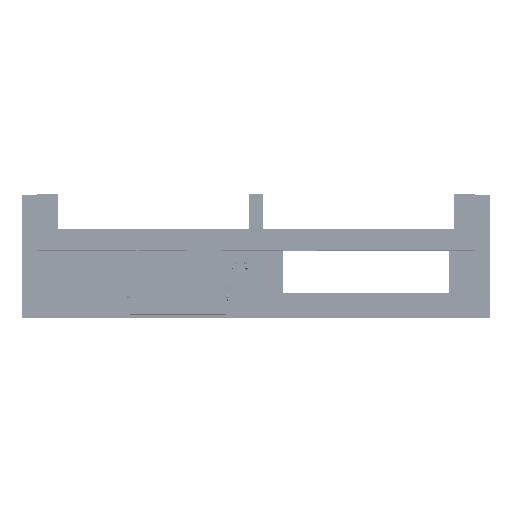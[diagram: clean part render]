
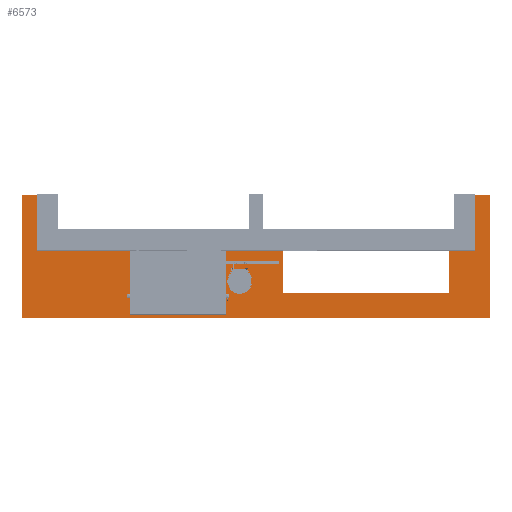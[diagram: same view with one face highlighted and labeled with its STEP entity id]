
A CAD part, top view. The second image highlights one B-rep face of the part: STEP entity #6573.
In plain terms, the highlighted planar face has unit normal (0, 0, 1).
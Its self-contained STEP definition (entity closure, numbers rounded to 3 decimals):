
#6406=CARTESIAN_POINT('',(28104.339,-3145.,-1120.));
#6407=VERTEX_POINT('',#6406);
#6414=CARTESIAN_POINT('',(28104.339,-1700.002,-1120.));
#6415=VERTEX_POINT('',#6414);
#6416=CARTESIAN_POINT('',(28104.339,-1700.002,-1120.));
#6417=DIRECTION('',(0.,-1.,-0.));
#6418=VECTOR('',#6417,1444.998);
#6419=LINE('',#6416,#6418);
#6420=EDGE_CURVE('',#6415,#6407,#6419,.T.);
#6444=CARTESIAN_POINT('',(22954.337,-3145.,-1120.));
#6445=VERTEX_POINT('',#6444);
#6452=CARTESIAN_POINT('',(28104.339,-3145.,-1120.));
#6453=DIRECTION('',(-1.,-0.,-0.));
#6454=VECTOR('',#6453,5150.002);
#6455=LINE('',#6452,#6454);
#6456=EDGE_CURVE('',#6407,#6445,#6455,.T.);
#6475=CARTESIAN_POINT('',(22954.337,-1700.002,-1120.));
#6476=VERTEX_POINT('',#6475);
#6483=CARTESIAN_POINT('',(22954.337,-3145.,-1120.));
#6484=DIRECTION('',(-0.,1.,-0.));
#6485=VECTOR('',#6484,1444.998);
#6486=LINE('',#6483,#6485);
#6487=EDGE_CURVE('',#6445,#6476,#6486,.T.);
#6493=CARTESIAN_POINT('',(22135.837,-2017.501,-1120.));
#6494=DIRECTION('',(0.,0.,1.));
#6495=DIRECTION('',(1.,0.,0.));
#6496=AXIS2_PLACEMENT_3D('',#6493,#6494,#6495);
#6497=PLANE('',#6496);
#6498=ORIENTED_EDGE('',*,*,#6420,.T.);
#6499=ORIENTED_EDGE('',*,*,#6456,.T.);
#6500=ORIENTED_EDGE('',*,*,#6487,.T.);
#6501=CARTESIAN_POINT('',(15512.336,-1700.002,-1120.));
#6502=VERTEX_POINT('',#6501);
#6503=CARTESIAN_POINT('',(22954.337,-1700.002,-1120.));
#6504=DIRECTION('',(-1.,-0.,0.));
#6505=VECTOR('',#6504,7442.001);
#6506=LINE('',#6503,#6505);
#6507=EDGE_CURVE('',#6476,#6502,#6506,.T.);
#6508=ORIENTED_EDGE('',*,*,#6507,.T.);
#6509=CARTESIAN_POINT('',(15512.336,-115.,-1120.));
#6510=VERTEX_POINT('',#6509);
#6511=CARTESIAN_POINT('',(15512.336,-1700.002,-1120.));
#6512=DIRECTION('',(0.,1.,0.));
#6513=VECTOR('',#6512,1585.002);
#6514=LINE('',#6511,#6513);
#6515=EDGE_CURVE('',#6502,#6510,#6514,.T.);
#6516=ORIENTED_EDGE('',*,*,#6515,.T.);
#6517=CARTESIAN_POINT('',(14912.337,-115.,-1120.));
#6518=VERTEX_POINT('',#6517);
#6519=CARTESIAN_POINT('',(15512.336,-115.,-1120.));
#6520=DIRECTION('',(-1.,-0.,0.));
#6521=VECTOR('',#6520,599.999);
#6522=LINE('',#6519,#6521);
#6523=EDGE_CURVE('',#6510,#6518,#6522,.T.);
#6524=ORIENTED_EDGE('',*,*,#6523,.T.);
#6525=CARTESIAN_POINT('',(14912.337,-3920.001,-1120.));
#6526=VERTEX_POINT('',#6525);
#6527=CARTESIAN_POINT('',(14912.337,-115.,-1120.));
#6528=DIRECTION('',(-0.,-1.,-0.));
#6529=VECTOR('',#6528,3805.001);
#6530=LINE('',#6527,#6529);
#6531=EDGE_CURVE('',#6518,#6526,#6530,.T.);
#6532=ORIENTED_EDGE('',*,*,#6531,.T.);
#6533=CARTESIAN_POINT('',(29359.338,-3920.001,-1120.));
#6534=VERTEX_POINT('',#6533);
#6535=CARTESIAN_POINT('',(14912.337,-3920.001,-1120.));
#6536=DIRECTION('',(1.,0.,-0.));
#6537=VECTOR('',#6536,14447.001);
#6538=LINE('',#6535,#6537);
#6539=EDGE_CURVE('',#6526,#6534,#6538,.T.);
#6540=ORIENTED_EDGE('',*,*,#6539,.T.);
#6541=CARTESIAN_POINT('',(29359.338,-115.,-1120.));
#6542=VERTEX_POINT('',#6541);
#6543=CARTESIAN_POINT('',(29359.338,-3920.001,-1120.));
#6544=DIRECTION('',(0.,1.,0.));
#6545=VECTOR('',#6544,3805.001);
#6546=LINE('',#6543,#6545);
#6547=EDGE_CURVE('',#6534,#6542,#6546,.T.);
#6548=ORIENTED_EDGE('',*,*,#6547,.T.);
#6549=CARTESIAN_POINT('',(28759.339,-115.,-1120.));
#6550=VERTEX_POINT('',#6549);
#6551=CARTESIAN_POINT('',(29359.338,-115.,-1120.));
#6552=DIRECTION('',(-1.,-0.,0.));
#6553=VECTOR('',#6552,599.999);
#6554=LINE('',#6551,#6553);
#6555=EDGE_CURVE('',#6542,#6550,#6554,.T.);
#6556=ORIENTED_EDGE('',*,*,#6555,.T.);
#6557=CARTESIAN_POINT('',(28759.339,-1700.002,-1120.));
#6558=VERTEX_POINT('',#6557);
#6559=CARTESIAN_POINT('',(28759.339,-115.,-1120.));
#6560=DIRECTION('',(-0.,-1.,-0.));
#6561=VECTOR('',#6560,1585.002);
#6562=LINE('',#6559,#6561);
#6563=EDGE_CURVE('',#6550,#6558,#6562,.T.);
#6564=ORIENTED_EDGE('',*,*,#6563,.T.);
#6565=CARTESIAN_POINT('',(28759.339,-1700.002,-1120.));
#6566=DIRECTION('',(-1.,-0.,0.));
#6567=VECTOR('',#6566,655.);
#6568=LINE('',#6565,#6567);
#6569=EDGE_CURVE('',#6558,#6415,#6568,.T.);
#6570=ORIENTED_EDGE('',*,*,#6569,.T.);
#6571=EDGE_LOOP('',(#6498,#6499,#6500,#6508,#6516,#6524,#6532,#6540,#6548,#6556,#6564,#6570));
#6572=FACE_BOUND('',#6571,.T.);
#6573=ADVANCED_FACE('',(#6572),#6497,.T.);
